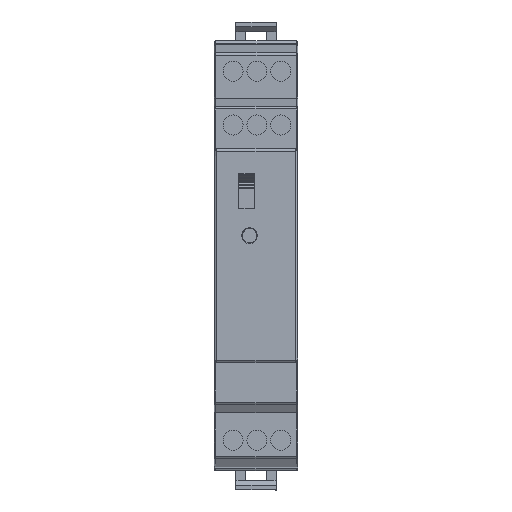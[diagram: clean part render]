
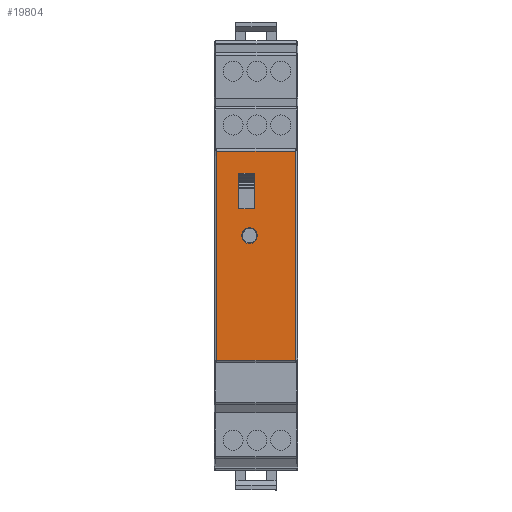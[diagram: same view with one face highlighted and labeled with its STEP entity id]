
A CAD part, top view. The second image highlights one B-rep face of the part: STEP entity #19804.
In plain terms, the highlighted planar face has unit normal (0, 0, 1).
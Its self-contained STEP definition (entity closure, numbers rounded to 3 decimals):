
#299 = CARTESIAN_POINT ( 'NONE',  ( 0.513, 26.62, 56.4 ) ) ;
#1921 = DIRECTION ( 'NONE',  ( 1., 0., 0. ) ) ;
#2020 = ORIENTED_EDGE ( 'NONE', *, *, #13998, .F. ) ;
#2127 = CARTESIAN_POINT ( 'NONE',  ( 0.017, 70.889, 56.4 ) ) ;
#2169 = DIRECTION ( 'NONE',  ( 1., 0., 0. ) ) ;
#2518 = ORIENTED_EDGE ( 'NONE', *, *, #14579, .T. ) ;
#2547 = LINE ( 'NONE', #28413, #24919 ) ;
#2789 = EDGE_CURVE ( 'NONE', #28593, #30705, #11700, .T. ) ;
#3575 = EDGE_CURVE ( 'NONE', #17399, #28593, #18919, .T. ) ;
#3957 = CARTESIAN_POINT ( 'NONE',  ( 8.43, 58.749, 56.4 ) ) ;
#4028 = VERTEX_POINT ( 'NONE', #16992 ) ;
#4092 = EDGE_CURVE ( 'NONE', #4028, #14420, #27815, .T. ) ;
#4468 = CARTESIAN_POINT ( 'NONE',  ( 16.987, 27.115, 56.4 ) ) ;
#4511 = FACE_OUTER_BOUND ( 'NONE', #17164, .T. ) ;
#4900 = EDGE_CURVE ( 'NONE', #23470, #12787, #23599, .T. ) ;
#4920 = AXIS2_PLACEMENT_3D ( 'NONE', #7327, #5163, #26359 ) ;
#5163 = DIRECTION ( 'NONE',  ( 0., 0., 1. ) ) ;
#5635 = CARTESIAN_POINT ( 'NONE',  ( 8.43, 66.249, 56.4 ) ) ;
#5939 = CIRCLE ( 'NONE', #14888, 1.65 ) ;
#6511 = EDGE_CURVE ( 'NONE', #22348, #17399, #26991, .T. ) ;
#6654 = DIRECTION ( 'NONE',  ( 0., 0., 1. ) ) ;
#6700 = DIRECTION ( 'NONE',  ( -1., 0., 0. ) ) ;
#7260 = FACE_BOUND ( 'NONE', #13944, .T. ) ;
#7327 = CARTESIAN_POINT ( 'NONE',  ( 7.393, 53.175, 56.4 ) ) ;
#7663 = ORIENTED_EDGE ( 'NONE', *, *, #3575, .F. ) ;
#7976 = VERTEX_POINT ( 'NONE', #30708 ) ;
#9045 = ORIENTED_EDGE ( 'NONE', *, *, #14191, .T. ) ;
#9471 = VERTEX_POINT ( 'NONE', #22175 ) ;
#9561 = DIRECTION ( 'NONE',  ( 0., -1., 0. ) ) ;
#10846 = VECTOR ( 'NONE', #16582, 1000. ) ;
#11700 = LINE ( 'NONE', #3957, #18855 ) ;
#11779 = CARTESIAN_POINT ( 'NONE',  ( 7.393, 53.175, 56.4 ) ) ;
#11906 = CARTESIAN_POINT ( 'NONE',  ( 5.13, 58.749, 56.4 ) ) ;
#12000 = CARTESIAN_POINT ( 'NONE',  ( 5.13, 66.249, 56.4 ) ) ;
#12787 = VERTEX_POINT ( 'NONE', #29837 ) ;
#13024 = LINE ( 'NONE', #20171, #25947 ) ;
#13224 = VECTOR ( 'NONE', #29121, 1000. ) ;
#13944 = EDGE_LOOP ( 'NONE', ( #24365, #2020, #28044, #7663 ) ) ;
#13993 = PLANE ( 'NONE',  #20755 ) ;
#13998 = EDGE_CURVE ( 'NONE', #30705, #22348, #2547, .T. ) ;
#14125 = CARTESIAN_POINT ( 'NONE',  ( 8.43, 58.749, 56.4 ) ) ;
#14191 = EDGE_CURVE ( 'NONE', #7976, #23470, #13024, .T. ) ;
#14420 = VERTEX_POINT ( 'NONE', #25494 ) ;
#14579 = EDGE_CURVE ( 'NONE', #12787, #9471, #23448, .T. ) ;
#14888 = AXIS2_PLACEMENT_3D ( 'NONE', #11779, #6654, #30509 ) ;
#16582 = DIRECTION ( 'NONE',  ( 0., 1., 0. ) ) ;
#16992 = CARTESIAN_POINT ( 'NONE',  ( 5.743, 53.175, 56.4 ) ) ;
#17164 = EDGE_LOOP ( 'NONE', ( #19983, #9045, #26930, #2518 ) ) ;
#17399 = VERTEX_POINT ( 'NONE', #12000 ) ;
#17642 = EDGE_CURVE ( 'NONE', #9471, #7976, #24582, .T. ) ;
#18855 = VECTOR ( 'NONE', #1921, 1000. ) ;
#18919 = LINE ( 'NONE', #11906, #24789 ) ;
#19214 = CARTESIAN_POINT ( 'NONE',  ( 16.987, 70.402, 56.4 ) ) ;
#19804 = ADVANCED_FACE ( 'NONE', ( #7260, #21458, #4511 ), #13993, .T. ) ;
#19983 = ORIENTED_EDGE ( 'NONE', *, *, #17642, .T. ) ;
#20171 = CARTESIAN_POINT ( 'NONE',  ( 17.483, 27.115, 56.4 ) ) ;
#20755 = AXIS2_PLACEMENT_3D ( 'NONE', #23489, #23633, #2169 ) ;
#21104 = DIRECTION ( 'NONE',  ( -1., 0., 0. ) ) ;
#21147 = ORIENTED_EDGE ( 'NONE', *, *, #4092, .F. ) ;
#21458 = FACE_BOUND ( 'NONE', #21703, .T. ) ;
#21703 = EDGE_LOOP ( 'NONE', ( #29512, #21147 ) ) ;
#22038 = EDGE_CURVE ( 'NONE', #14420, #4028, #5939, .T. ) ;
#22175 = CARTESIAN_POINT ( 'NONE',  ( 0.513, 70.889, 56.4 ) ) ;
#22348 = VERTEX_POINT ( 'NONE', #23931 ) ;
#22515 = DIRECTION ( 'NONE',  ( 1., 0., 0. ) ) ;
#23448 = LINE ( 'NONE', #2127, #27445 ) ;
#23470 = VERTEX_POINT ( 'NONE', #4468 ) ;
#23489 = CARTESIAN_POINT ( 'NONE',  ( 16.5, 70.402, 56.4 ) ) ;
#23599 = LINE ( 'NONE', #19214, #10846 ) ;
#23633 = DIRECTION ( 'NONE',  ( 0., 0., 1. ) ) ;
#23931 = CARTESIAN_POINT ( 'NONE',  ( 8.43, 66.249, 56.4 ) ) ;
#24365 = ORIENTED_EDGE ( 'NONE', *, *, #6511, .F. ) ;
#24582 = LINE ( 'NONE', #299, #13224 ) ;
#24789 = VECTOR ( 'NONE', #9561, 1000. ) ;
#24919 = VECTOR ( 'NONE', #28696, 1000. ) ;
#25494 = CARTESIAN_POINT ( 'NONE',  ( 9.043, 53.175, 56.4 ) ) ;
#25947 = VECTOR ( 'NONE', #22515, 1000. ) ;
#26359 = DIRECTION ( 'NONE',  ( 1., 0., 0. ) ) ;
#26930 = ORIENTED_EDGE ( 'NONE', *, *, #4900, .T. ) ;
#26991 = LINE ( 'NONE', #5635, #29443 ) ;
#27445 = VECTOR ( 'NONE', #21104, 1000. ) ;
#27815 = CIRCLE ( 'NONE', #4920, 1.65 ) ;
#28044 = ORIENTED_EDGE ( 'NONE', *, *, #2789, .F. ) ;
#28413 = CARTESIAN_POINT ( 'NONE',  ( 8.43, 58.749, 56.4 ) ) ;
#28425 = CARTESIAN_POINT ( 'NONE',  ( 5.13, 58.749, 56.4 ) ) ;
#28593 = VERTEX_POINT ( 'NONE', #28425 ) ;
#28696 = DIRECTION ( 'NONE',  ( 0., 1., 0. ) ) ;
#29121 = DIRECTION ( 'NONE',  ( 0., -1., 0. ) ) ;
#29443 = VECTOR ( 'NONE', #6700, 1000. ) ;
#29512 = ORIENTED_EDGE ( 'NONE', *, *, #22038, .F. ) ;
#29837 = CARTESIAN_POINT ( 'NONE',  ( 16.987, 70.889, 56.4 ) ) ;
#30509 = DIRECTION ( 'NONE',  ( 1., 0., 0. ) ) ;
#30705 = VERTEX_POINT ( 'NONE', #14125 ) ;
#30708 = CARTESIAN_POINT ( 'NONE',  ( 0.513, 27.115, 56.4 ) ) ;
